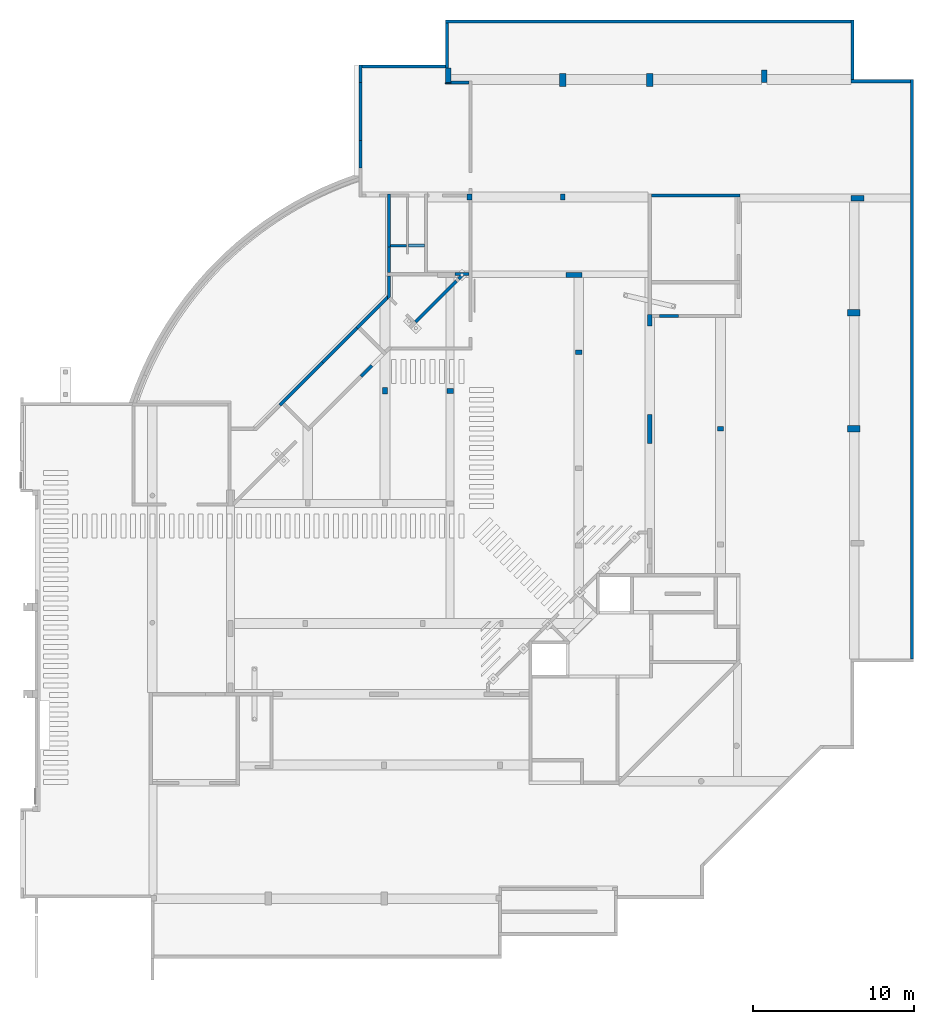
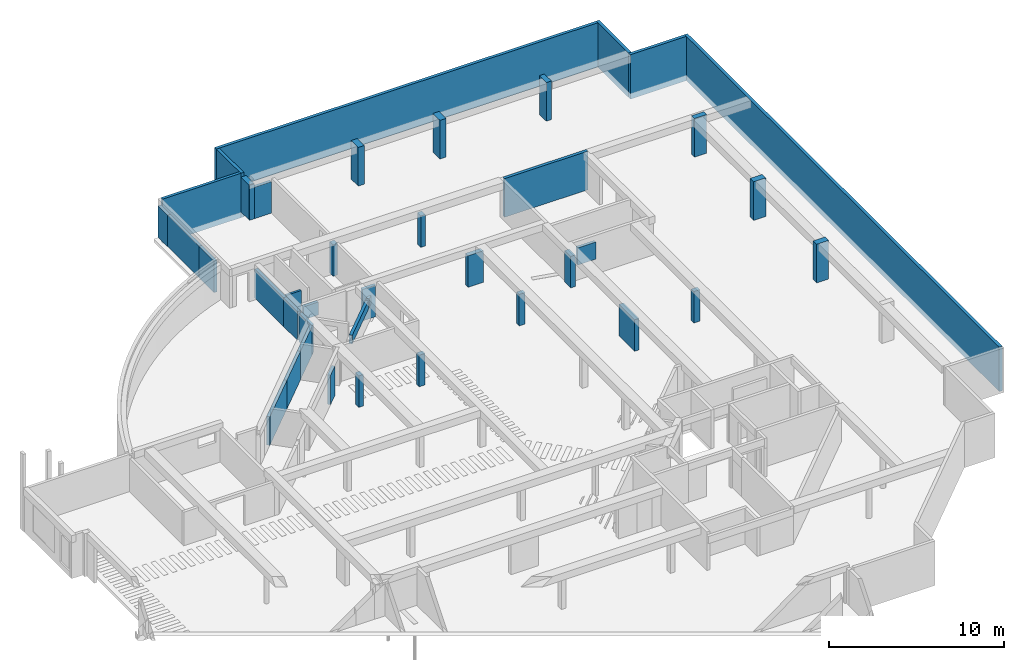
# One storey, part 5 of 12: 41 walls.
"""IFC4X3_ADD2 building model written with IfcOpenShell, lengths in millimetres."""

from ifc_helpers import new_model, si_unit, direction, frame, frame_2d, origin_with_axes, origin_2d_with_axis, place, context, subcontext, project, spatial, polyline, rectangle, outline, extrude, material, type_object, element, save


model = new_model("IFC4X3_ADD2")

# Units and contexts
model_context = context("Model", 3, precision=1e-05, world=origin_with_axes(), true_north=direction((0.0, 1.0)))
body_context = subcontext(model_context, "Body", "Model", "MODEL_VIEW")
ifc_project = project(units=[si_unit("LENGTHUNIT", "METRE", prefix="MILLI"), si_unit("AREAUNIT", "SQUARE_METRE"), si_unit("VOLUMEUNIT", "CUBIC_METRE"), si_unit("PLANEANGLEUNIT", "RADIAN"), si_unit("TIMEUNIT", "SECOND"), si_unit("MASSUNIT", "GRAM")], contexts=[model_context])

# Site, building, storey
site_placement = place(None, origin_with_axes())
site = spatial("IfcSite", under=ifc_project, at=site_placement, Name="Site", CompositionType="ELEMENT")
building_placement = place(site_placement, origin_with_axes())
building = spatial("IfcBuilding", under=site, at=building_placement, Name="IFC Building Story")
storey_placement = place(building_placement, frame((0.0, 0.0, -5940.0), z_axis=(0.0, 0.0, 1.0), x_axis=(1.0, 0.0, 0.0)))
storey = spatial("IfcBuildingStorey", under=building, at=storey_placement, Name="K20", Elevation=-5940.0)

# Walls
ifc_material_1 = material(Name="BB_Beton_Bestaand")
wall_type_1 = type_object("IfcWallType", Name="BB_Beton_Bestaand 200", PredefinedType="NOTDEFINED", material=ifc_material_1)
wall_1_placement = place(storey_placement, origin_with_axes())
element("IfcWall", 1, at=wall_1_placement, inside=storey, type_object=wall_type_1, Name="Basic Wall:BB_XX_Wand uit beton, 200 mm", ObjectType="Basic Wall:BB_XX_Wand uit beton, 200 mm", PredefinedType="SOLIDWALL", context=body_context, shape_type="SweptSolid", body=[
    extrude(rectangle(XDim=36005.0275077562, YDim=200.0, at=frame_2d((0.0, 0.0), x_axis=(0.0, 1.0))), frame((3699.82543599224, 32797.5137538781, -400.0), z_axis=(0.0, 0.0, 1.0), x_axis=(1.0, 0.0, 0.0)), (0.0, 0.0, 1.0), 3100.0),
])
wall_2_placement = place(storey_placement, origin_with_axes())
element("IfcWall", 2, at=wall_2_placement, inside=storey, type_object=wall_type_1, Name="Basic Wall:BB_XX_Wand uit beton, 200 mm", ObjectType="Basic Wall:BB_XX_Wand uit beton, 200 mm", PredefinedType="SOLIDWALL", context=body_context, shape_type="SweptSolid", body=[
    extrude(rectangle(XDim=3699.82543599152, YDim=200.0000000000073, at=origin_2d_with_axis()), frame((1749.91271799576, 50700.0275077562, -400.0), z_axis=(0.0, 0.0, 1.0), x_axis=(1.0, 0.0, 0.0)), (0.0, 0.0, 1.0), 3100.0),
])
wall_3_placement = place(storey_placement, origin_with_axes())
element("IfcWall", 3, at=wall_3_placement, inside=storey, type_object=wall_type_1, Name="Basic Wall:BB_XX_Wand uit beton, 200 mm", ObjectType="Basic Wall:BB_XX_Wand uit beton, 200 mm", PredefinedType="SOLIDWALL", context=body_context, shape_type="SweptSolid", body=[
    extrude(rectangle(XDim=3699.903721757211, YDim=200.0, at=frame_2d((0.0, 0.0), x_axis=(0.0, 1.0))), frame((0.0, 52649.9793686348, -400.0), z_axis=(0.0, 0.0, 1.0), x_axis=(1.0, 0.0, 0.0)), (0.0, 0.0, 1.0), 3100.0),
])
wall_4_placement = place(storey_placement, origin_with_axes())
element("IfcWall", 4, at=wall_4_placement, inside=storey, type_object=wall_type_1, Name="Basic Wall:BB_XX_Wand uit beton, 200 mm", ObjectType="Basic Wall:BB_XX_Wand uit beton, 200 mm", PredefinedType="SOLIDWALL", context=body_context, shape_type="SweptSolid", body=[
    extrude(rectangle(XDim=25200.0000000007, YDim=200.0, at=origin_2d_with_axis()), frame((-12699.99999999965, 54399.9312295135, -400.0), z_axis=(0.0, 0.0, 1.0), x_axis=(1.0, 0.0, 0.0)), (0.0, 0.0, 1.0), 3100.0),
])
wall_5_placement = place(storey_placement, origin_with_axes())
element("IfcWall", 5, at=wall_5_placement, inside=storey, type_object=wall_type_1, Name="Basic Wall:BB_XX_Wand uit beton, 200 mm", ObjectType="Basic Wall:BB_XX_Wand uit beton, 200 mm", PredefinedType="SOLIDWALL", context=body_context, shape_type="SweptSolid", body=[
    extrude(rectangle(XDim=2794.931229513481, YDim=200.0, at=frame_2d((0.0, 0.0), x_axis=(0.0, 1.0))), frame((-25200.0, 52902.46561475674, -400.0), z_axis=(0.0, 0.0, 1.0), x_axis=(1.0, 0.0, 0.0)), (0.0, 0.0, 1.0), 3100.0),
])
wall_6_placement = place(storey_placement, origin_with_axes())
element("IfcWall", 6, at=wall_6_placement, inside=storey, type_object=wall_type_1, Name="Basic Wall:BB_XX_Wand uit beton, 200 mm", ObjectType="Basic Wall:BB_XX_Wand uit beton, 200 mm", PredefinedType="SOLIDWALL", context=body_context, shape_type="SweptSolid", body=[
    extrude(rectangle(XDim=1090.000000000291, YDim=200.0, at=frame_2d((0.0, 0.0), x_axis=(0.0, 1.0))), frame((-30565.0, 51150.00000000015, 0.0), z_axis=(0.0, 0.0, 1.0), x_axis=(1.0, 0.0, 0.0)), (0.0, 0.0, 1.0), 2200.0),
])
wall_7_placement = place(storey_placement, origin_with_axes())
element("IfcWall", 7, at=wall_7_placement, inside=storey, type_object=wall_type_1, Name="Basic Wall:BB_XX_Wand uit beton, 200 mm", ObjectType="Basic Wall:BB_XX_Wand uit beton, 200 mm", PredefinedType="SOLIDWALL", context=body_context, shape_type="SweptSolid", body=[
    extrude(rectangle(XDim=3300.00406588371, YDim=200.0, at=frame_2d((0.0, 0.0), x_axis=(0.0, 1.0))), frame((-28800.0, 42049.99796705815, 0.0), z_axis=(0.0, 0.0, 1.0), x_axis=(1.0, 0.0, 0.0)), (0.0, 0.0, 1.0), 2010.0),
])
wall_8_placement = place(storey_placement, origin_with_axes())
element("IfcWall", 8, at=wall_8_placement, inside=storey, type_object=wall_type_1, Name="Basic Wall:BB_XX_Wand uit beton, 200 mm", ObjectType="Basic Wall:BB_XX_Wand uit beton, 200 mm", PredefinedType="SOLIDWALL", context=body_context, shape_type="SweptSolid", body=[
    extrude(outline(polyline([(-100.0, -793.5008513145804), (-100.0, 693.5008513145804), (100.0, 693.5008513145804), (100.0, -593.5008513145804), (-100.0, -793.5008513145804)])), frame((-28800.0, 37906.49508280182, 0.0), z_axis=(0.0, 0.0, 1.0), x_axis=(1.0, 0.0, 0.0)), (0.0, 0.0, 1.0), 2010.0),
])
wall_9_placement = place(storey_placement, origin_with_axes())
element("IfcWall", 9, at=wall_9_placement, inside=storey, type_object=wall_type_1, Name="Basic Wall:BB_XX_Wand uit beton, 200 mm", ObjectType="Basic Wall:BB_XX_Wand uit beton, 200 mm", PredefinedType="SOLIDWALL", context=body_context, shape_type="SweptSolid", body=[
    extrude(outline(polyline([(-1015.569356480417, -874.1480002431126), (944.8586783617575, 1086.280034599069), (944.8586783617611, 803.4373221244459), (-874.1480002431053, -1015.569356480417), (-1015.569356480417, -874.1480002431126)])), frame((-29844.85867836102, 36309.55690936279, 0.0), z_axis=(0.0, 0.0, 1.0), x_axis=(1.0, 0.0, 0.0)), (0.0, 0.0, 1.0), 2010.0),
])
wall_10_placement = place(storey_placement, origin_with_axes())
element("IfcWall", 10, at=wall_10_placement, inside=storey, type_object=wall_type_1, Name="Basic Wall:BB_XX_Wand uit beton, 200 mm", ObjectType="Basic Wall:BB_XX_Wand uit beton, 200 mm", PredefinedType="SOLIDWALL", context=body_context, shape_type="SweptSolid", body=[
    extrude(rectangle(XDim=3020.000000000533, YDim=199.9999999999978, at=frame_2d((0.0, 0.0), x_axis=(0.7071067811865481, 0.7071067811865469))), frame((-31857.44859631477, 34296.96699140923, 0.0), z_axis=(0.0, 0.0, 1.0), x_axis=(1.0, 0.0, 0.0)), (0.0, 0.0, 1.0), 2010.0),
])
wall_11_placement = place(storey_placement, origin_with_axes())
element("IfcWall", 11, at=wall_11_placement, inside=storey, type_object=wall_type_1, Name="Basic Wall:BB_XX_Wand uit beton, 200 mm", ObjectType="Basic Wall:BB_XX_Wand uit beton, 200 mm", PredefinedType="SOLIDWALL", context=body_context, shape_type="SweptSolid", body=[
    extrude(rectangle(XDim=5505.004065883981, YDim=200.0000000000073, at=origin_2d_with_axis()), frame((-9747.50203294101, 43600.0, 0.0), z_axis=(0.0, 0.0, 1.0), x_axis=(1.0, 0.0, 0.0)), (0.0, 0.0, 1.0), 2700.0),
])
wall_12_placement = place(storey_placement, origin_with_axes())
element("IfcWall", 12, at=wall_12_placement, inside=storey, type_object=wall_type_1, Name="Basic Wall:BB_XX_Wand uit beton, 200 mm", ObjectType="Basic Wall:BB_XX_Wand uit beton, 200 mm", PredefinedType="SOLIDWALL", context=body_context, shape_type="SweptSolid", body=[
    extrude(rectangle(XDim=3750.00000000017, YDim=199.9999999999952, at=frame_2d((0.0, 0.0), x_axis=(0.7071067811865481, 0.7071067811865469))), frame((-34251.00505063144, 31903.41053709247, 0.0), z_axis=(0.0, 0.0, 1.0), x_axis=(1.0, 0.0, 0.0)), (0.0, 0.0, 1.0), 2010.0),
])
wall_type_2 = type_object("IfcWallType", Name="BB_Beton_Bestaand 190", PredefinedType="NOTDEFINED", material=ifc_material_1)
wall_13_placement = place(storey_placement, origin_with_axes())
element("IfcWall", 13, at=wall_13_placement, inside=storey, type_object=wall_type_2, Name="Basic Wall:BB_XX_Wand uit beton, 190 mm", ObjectType="Basic Wall:BB_XX_Wand uit beton, 190 mm", PredefinedType="SOLIDWALL", context=body_context, shape_type="SweptSolid", body=[
    extrude(rectangle(XDim=5164.999999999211, YDim=189.9999999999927, at=origin_2d_with_axis()), frame((-27882.5000000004, 51600.0, -400.0), z_axis=(0.0, 0.0, 1.0), x_axis=(1.0, 0.0, 0.0)), (0.0, 0.0, 1.0), 3100.0),
])
wall_type_3 = type_object("IfcWallType", Name="BB_Beton_Bestaand 400", PredefinedType="NOTDEFINED", material=ifc_material_1)
wall_14_placement = place(storey_placement, origin_with_axes())
element("IfcWall", 14, at=wall_14_placement, inside=storey, type_object=wall_type_3, Name="Basic Wall:BB_XX_Wand uit beton, 400 mm", ObjectType="Basic Wall:BB_XX_Wand uit beton, 400 mm", PredefinedType="SOLIDWALL", context=body_context, shape_type="SweptSolid", body=[
    extrude(rectangle(XDim=799.999999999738, YDim=400.0000000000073, at=origin_2d_with_axis()), frame((79.99999999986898, 29100.0, 0.0), z_axis=(0.0, 0.0, 1.0), x_axis=(1.0, 0.0, 0.0)), (0.0, 0.0, 1.0), 2700.0),
])
wall_15_placement = place(storey_placement, origin_with_axes())
element("IfcWall", 15, at=wall_15_placement, inside=storey, type_object=wall_type_3, Name="Basic Wall:BB_XX_Wand uit beton, 400 mm", ObjectType="Basic Wall:BB_XX_Wand uit beton, 400 mm", PredefinedType="SOLIDWALL", context=body_context, shape_type="SweptSolid", body=[
    extrude(rectangle(XDim=799.999999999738, YDim=400.0, at=origin_2d_with_axis()), frame((79.99999999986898, 36300.0, 0.0), z_axis=(0.0, 0.0, 1.0), x_axis=(1.0, 0.0, 0.0)), (0.0, 0.0, 1.0), 2700.0),
])
wall_16_placement = place(storey_placement, origin_with_axes())
element("IfcWall", 16, at=wall_16_placement, inside=storey, type_object=wall_type_3, Name="Basic Wall:BB_XX_Wand uit beton, 400 mm", ObjectType="Basic Wall:BB_XX_Wand uit beton, 400 mm", PredefinedType="SOLIDWALL", context=body_context, shape_type="SweptSolid", body=[
    extrude(rectangle(XDim=799.9999999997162, YDim=400.0, at=frame_2d((0.0, 0.0), x_axis=(0.0, 1.0))), frame((-12599.3313868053, 50780.00000000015, 0.0), z_axis=(0.0, 0.0, 1.0), x_axis=(1.0, 0.0, 0.0)), (0.0, 0.0, 1.0), 2700.0),
])
wall_17_placement = place(storey_placement, origin_with_axes())
element("IfcWall", 17, at=wall_17_placement, inside=storey, type_object=wall_type_3, Name="Basic Wall:BB_XX_Wand uit beton, 400 mm", ObjectType="Basic Wall:BB_XX_Wand uit beton, 400 mm", PredefinedType="SOLIDWALL", context=body_context, shape_type="SweptSolid", body=[
    extrude(rectangle(XDim=799.9999999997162, YDim=400.0, at=frame_2d((0.0, 0.0), x_axis=(0.0, 1.0))), frame((-17999.3313868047, 50780.00000000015, 0.0), z_axis=(0.0, 0.0, 1.0), x_axis=(1.0, 0.0, 0.0)), (0.0, 0.0, 1.0), 2700.0),
])
wall_type_4 = type_object("IfcWallType", Name="BB_Beton_Bestaand 300", PredefinedType="NOTDEFINED", material=ifc_material_1)
wall_18_placement = place(storey_placement, origin_with_axes())
element("IfcWall", 18, at=wall_18_placement, inside=storey, type_object=wall_type_4, Name="Basic Wall:BB_XX_Wand uit beton, 300 mm", ObjectType="Basic Wall:BB_XX_Wand uit beton, 300 mm", PredefinedType="SOLIDWALL", context=body_context, shape_type="SweptSolid", body=[
    extrude(rectangle(XDim=400.0, YDim=300.0, at=origin_2d_with_axis()), frame((-17000.0, 33850.0, 0.0), z_axis=(0.0, 0.0, 1.0), x_axis=(1.0, 0.0, 0.0)), (0.0, 0.0, 1.0), 2200.0),
])
wall_19_placement = place(storey_placement, origin_with_axes())
element("IfcWall", 19, at=wall_19_placement, inside=storey, type_object=wall_type_4, Name="Basic Wall:BB_XX_Wand uit beton, 300 mm", ObjectType="Basic Wall:BB_XX_Wand uit beton, 300 mm", PredefinedType="SOLIDWALL", context=body_context, shape_type="SweptSolid", body=[
    extrude(rectangle(XDim=400.0000000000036, YDim=300.0, at=origin_2d_with_axis()), frame((-25000.0, 31450.0, 0.0), z_axis=(0.0, 0.0, 1.0), x_axis=(1.0, 0.0, 0.0)), (0.0, 0.0, 1.0), 2200.0),
])
wall_20_placement = place(storey_placement, origin_with_axes())
element("IfcWall", 20, at=wall_20_placement, inside=storey, type_object=wall_type_4, Name="Basic Wall:BB_XX_Wand uit beton, 300 mm", ObjectType="Basic Wall:BB_XX_Wand uit beton, 300 mm", PredefinedType="SOLIDWALL", context=body_context, shape_type="SweptSolid", body=[
    extrude(rectangle(XDim=400.0, YDim=300.0, at=frame_2d((0.0, 0.0), x_axis=(0.0, 1.0))), frame((-29050.0, 31450.0, 0.0), z_axis=(0.0, 0.0, 1.0), x_axis=(1.0, 0.0, 0.0)), (0.0, 0.0, 1.0), 2200.0),
])
wall_21_placement = place(storey_placement, origin_with_axes())
element("IfcWall", 21, at=wall_21_placement, inside=storey, type_object=wall_type_4, Name="Basic Wall:BB_XX_Wand uit beton, 300 mm", ObjectType="Basic Wall:BB_XX_Wand uit beton, 300 mm", PredefinedType="SOLIDWALL", context=body_context, shape_type="SweptSolid", body=[
    extrude(rectangle(XDim=999.9999999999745, YDim=300.0, at=origin_2d_with_axis()), frame((-17295.00000000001, 38650.0, 0.0), z_axis=(0.0, 0.0, 1.0), x_axis=(1.0, 0.0, 0.0)), (0.0, 0.0, 1.0), 2200.0),
])
wall_22_placement = place(storey_placement, origin_with_axes())
element("IfcWall", 22, at=wall_22_placement, inside=storey, type_object=wall_type_4, Name="Basic Wall:BB_XX_Wand uit beton, 300 mm", ObjectType="Basic Wall:BB_XX_Wand uit beton, 300 mm", PredefinedType="SOLIDWALL", context=body_context, shape_type="SweptSolid", body=[
    extrude(rectangle(XDim=700.0, YDim=300.0000000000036, at=frame_2d((0.0, 0.0), x_axis=(0.0, 1.0))), frame((-12600.0, 35850.0, 0.0), z_axis=(0.0, 0.0, 1.0), x_axis=(1.0, 0.0, 0.0)), (0.0, 0.0, 1.0), 2200.0),
])
wall_23_placement = place(storey_placement, origin_with_axes())
element("IfcWall", 23, at=wall_23_placement, inside=storey, type_object=wall_type_4, Name="Basic Wall:BB_XX_Wand uit beton, 300 mm", ObjectType="Basic Wall:BB_XX_Wand uit beton, 300 mm", PredefinedType="SOLIDWALL", context=body_context, shape_type="SweptSolid", body=[
    extrude(rectangle(XDim=1800.0, YDim=300.0000000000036, at=frame_2d((0.0, 0.0), x_axis=(0.0, 1.0))), frame((-12600.0, 29100.0, 0.0), z_axis=(0.0, 0.0, 1.0), x_axis=(1.0, 0.0, 0.0)), (0.0, 0.0, 1.0), 2200.0),
])
wall_24_placement = place(storey_placement, origin_with_axes())
element("IfcWall", 24, at=wall_24_placement, inside=storey, type_object=wall_type_4, Name="Basic Wall:BB_XX_Wand uit beton, 300 mm", ObjectType="Basic Wall:BB_XX_Wand uit beton, 300 mm", PredefinedType="SOLIDWALL", context=body_context, shape_type="SweptSolid", body=[
    extrude(rectangle(XDim=400.0, YDim=300.0, at=origin_2d_with_axis()), frame((-8200.0, 29100.0, 0.0), z_axis=(0.0, 0.0, 1.0), x_axis=(1.0, 0.0, 0.0)), (0.0, 0.0, 1.0), 2200.0),
])
wall_25_placement = place(storey_placement, origin_with_axes())
element("IfcWall", 25, at=wall_25_placement, inside=storey, type_object=wall_type_4, Name="Basic Wall:BB_XX_Wand uit beton, 300 mm", ObjectType="Basic Wall:BB_XX_Wand uit beton, 300 mm", PredefinedType="SOLIDWALL", context=body_context, shape_type="SweptSolid", body=[
    extrude(rectangle(XDim=400.0000000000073, YDim=300.0, at=frame_2d((0.0, 0.0), x_axis=(0.0, 1.0))), frame((-23800.0, 43500.0, 0.0), z_axis=(0.0, 0.0, 1.0), x_axis=(1.0, 0.0, 0.0)), (0.0, 0.0, 1.0), 2200.0),
])
wall_26_placement = place(storey_placement, origin_with_axes())
element("IfcWall", 26, at=wall_26_placement, inside=storey, type_object=wall_type_4, Name="Basic Wall:BB_XX_Wand uit beton, 300 mm", ObjectType="Basic Wall:BB_XX_Wand uit beton, 300 mm", PredefinedType="SOLIDWALL", context=body_context, shape_type="SweptSolid", body=[
    extrude(rectangle(XDim=400.0000000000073, YDim=300.0, at=frame_2d((0.0, 0.0), x_axis=(0.0, 1.0))), frame((-18000.0, 43500.0, 0.0), z_axis=(0.0, 0.0, 1.0), x_axis=(1.0, 0.0, 0.0)), (0.0, 0.0, 1.0), 2200.0),
])
wall_type_5 = type_object("IfcWallType", Name="BB_Beton_Bestaand 340", PredefinedType="NOTDEFINED", material=ifc_material_1)
wall_27_placement = place(storey_placement, origin_with_axes())
element("IfcWall", 27, at=wall_27_placement, inside=storey, type_object=wall_type_5, Name="Basic Wall:BB_XX_Wand uit beton, 340 mm", ObjectType="Basic Wall:BB_XX_Wand uit beton, 340 mm", PredefinedType="SOLIDWALL", context=body_context, shape_type="SweptSolid", body=[
    extrude(rectangle(XDim=800.0, YDim=339.9999999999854, at=origin_2d_with_axis()), frame((305.0, 43425.0, 0.0), z_axis=(0.0, 0.0, 1.0), x_axis=(1.0, 0.0, 0.0)), (0.0, 0.0, 1.0), 2700.0),
])
wall_28_placement = place(storey_placement, origin_with_axes())
element("IfcWall", 28, at=wall_28_placement, inside=storey, type_object=wall_type_5, Name="Basic Wall:BB_XX_Wand uit beton, 340 mm", ObjectType="Basic Wall:BB_XX_Wand uit beton, 340 mm", PredefinedType="SOLIDWALL", context=body_context, shape_type="SweptSolid", body=[
    extrude(rectangle(XDim=800.0, YDim=340.0, at=frame_2d((0.0, 0.0), x_axis=(0.0, 1.0))), frame((-5475.0, 51005.0, 0.0), z_axis=(0.0, 0.0, 1.0), x_axis=(1.0, 0.0, 0.0)), (0.0, 0.0, 1.0), 2700.0),
])
wall_29_placement = place(storey_placement, origin_with_axes())
element("IfcWall", 29, at=wall_29_placement, inside=storey, type_object=wall_type_5, Name="Basic Wall:BB_XX_Wand uit beton, 340 mm", ObjectType="Basic Wall:BB_XX_Wand uit beton, 340 mm", PredefinedType="SOLIDWALL", context=body_context, shape_type="SweptSolid", body=[
    extrude(rectangle(XDim=904.9999999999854, YDim=340.0, at=frame_2d((0.0, 0.0), x_axis=(0.0, 1.0))), frame((-25125.0, 51052.50000000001, 0.0), z_axis=(0.0, 0.0, 1.0), x_axis=(1.0, 0.0, 0.0)), (0.0, 0.0, 1.0), 2440.0),
])
ifc_material_2 = material(Name="BB_Metselwerk_Bestaand")
wall_type_6 = type_object("IfcWallType", Name="BB_Metselwerk_Bestaand 140", PredefinedType="NOTDEFINED", material=ifc_material_2)
wall_30_placement = place(storey_placement, origin_with_axes())
element("IfcWall", 30, at=wall_30_placement, inside=storey, type_object=wall_type_6, Name="Basic Wall:BB_XX_Wand uit metselwerk, 140 mm", ObjectType="Basic Wall:BB_XX_Wand uit metselwerk, 140 mm", PredefinedType="SOLIDWALL", context=body_context, shape_type="SweptSolid", body=[
    extrude(rectangle(XDim=980.0000000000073, YDim=140.0, at=origin_2d_with_axis()), frame((-28210.0, 40469.9959341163, 0.0), z_axis=(0.0, 0.0, 1.0), x_axis=(1.0, 0.0, 0.0)), (0.0, 0.0, 1.0), 2100.0),
])
ifc_material_3 = material(Name="BB_Metselwerk_Betonsteen")
wall_type_7 = type_object("IfcWallType", Name="BB_Metselwerk_Betonsteen 190", PredefinedType="NOTDEFINED", material=ifc_material_3)
wall_31_placement = place(storey_placement, origin_with_axes())
element("IfcWall", 31, at=wall_31_placement, inside=storey, type_object=wall_type_7, Name="Basic Wall:BB_03.09.24#05_Wand uit metselwerk_EI60, 190 mm", ObjectType="Basic Wall:BB_03.09.24#05_Wand uit metselwerk_EI60, 190 mm", PredefinedType="SOLIDWALL", context=body_context, shape_type="SweptSolid", body=[
    extrude(rectangle(XDim=1115.000000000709, YDim=189.9999999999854, at=origin_2d_with_axis()), frame((-24397.49999999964, 50625.0, 0.0), z_axis=(0.0, 0.0, 1.0), x_axis=(1.0, 0.0, 0.0)), (0.0, 0.0, 1.0), 2200.0),
])
wall_32_placement = place(storey_placement, origin_with_axes())
element("IfcWall", 32, at=wall_32_placement, inside=storey, type_object=wall_type_7, Name="Basic Wall:BB_03.09.24#05_Wand uit metselwerk_EI60, 190 mm", ObjectType="Basic Wall:BB_03.09.24#05_Wand uit metselwerk_EI60, 190 mm", PredefinedType="SOLIDWALL", context=body_context, shape_type="SweptSolid", body=[
    extrude(rectangle(XDim=865.0000000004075, YDim=190.0, at=origin_2d_with_axis()), frame((-24272.4999999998, 38704.9959341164, 0.0), z_axis=(0.0, 0.0, 1.0), x_axis=(1.0, 0.0, 0.0)), (0.0, 0.0, 1.0), 2200.0),
])
wall_33_placement = place(storey_placement, origin_with_axes())
element("IfcWall", 33, at=wall_33_placement, inside=storey, type_object=wall_type_7, Name="Basic Wall:BB_03.09.24#05_Wand uit metselwerk_EI60, 190 mm", ObjectType="Basic Wall:BB_03.09.24#05_Wand uit metselwerk_EI60, 190 mm", PredefinedType="SOLIDWALL", context=body_context, shape_type="SweptSolid", body=[
    extrude(rectangle(XDim=3578.006274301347, YDim=190.0000000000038, at=frame_2d((0.0, 0.0), x_axis=(0.7071067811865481, 0.7071067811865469))), frame((-25875.81329764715, 37018.84002882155, 1000.0), z_axis=(0.0, 0.0, 1.0), x_axis=(1.0, 0.0, 0.0)), (0.0, 0.0, 1.0), 600.0),
])
wall_34_placement = place(storey_placement, origin_with_axes())
element("IfcWall", 34, at=wall_34_placement, inside=storey, type_object=wall_type_7, Name="Basic Wall:BB_03.09.24#05_Wand uit metselwerk_EI60, 190 mm", ObjectType="Basic Wall:BB_03.09.24#05_Wand uit metselwerk_EI60, 190 mm", PredefinedType="SOLIDWALL", context=body_context, shape_type="SweptSolid", body=[
    extrude(rectangle(XDim=3585.001031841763, YDim=190.0, at=frame_2d((0.0, 0.0), x_axis=(0.0, 1.0))), frame((-30560.0, 48812.49948407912, 0.0), z_axis=(0.0, 0.0, 1.0), x_axis=(1.0, 0.0, 0.0)), (0.0, 0.0, 1.0), 2200.0),
])
wall_35_placement = place(storey_placement, origin_with_axes())
element("IfcWall", 35, at=wall_35_placement, inside=storey, type_object=wall_type_7, Name="Basic Wall:BB_03.09.24#05_Wand uit metselwerk_EI60, 190 mm", ObjectType="Basic Wall:BB_03.09.24#05_Wand uit metselwerk_EI60, 190 mm", PredefinedType="SOLIDWALL", context=body_context, shape_type="SweptSolid", body=[
    extrude(rectangle(XDim=1714.998968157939, YDim=190.0, at=frame_2d((0.0, 0.0), x_axis=(0.0, 1.0))), frame((-30560.0, 46162.49948407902, 0.0), z_axis=(0.0, 0.0, 1.0), x_axis=(1.0, 0.0, 0.0)), (0.0, 0.0, 1.0), 2200.0),
])
wall_36_placement = place(storey_placement, origin_with_axes())
element("IfcWall", 36, at=wall_36_placement, inside=storey, type_object=wall_type_7, Name="Basic Wall:BB_03.09.24#05_Wand uit metselwerk_EI60, 190 mm", ObjectType="Basic Wall:BB_03.09.24#05_Wand uit metselwerk_EI60, 190 mm", PredefinedType="SOLIDWALL", context=body_context, shape_type="SweptSolid", body=[
    extrude(rectangle(XDim=1599.999999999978, YDim=190.0, at=frame_2d((0.0, 0.0), x_axis=(0.0, 1.0))), frame((-28805.0, 39599.99593411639, 0.0), z_axis=(0.0, 0.0, 1.0), x_axis=(1.0, 0.0, 0.0)), (0.0, 0.0, 1.0), 2010.0),
])
wall_37_placement = place(storey_placement, origin_with_axes())
element("IfcWall", 37, at=wall_37_placement, inside=storey, type_object=wall_type_7, Name="Basic Wall:BB_03.09.24#05_Wand uit metselwerk_EI60, 190 mm", ObjectType="Basic Wall:BB_03.09.24#05_Wand uit metselwerk_EI60, 190 mm", PredefinedType="SOLIDWALL", context=body_context, shape_type="SweptSolid", body=[
    extrude(rectangle(XDim=979.9999999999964, YDim=189.9999999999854, at=origin_2d_with_axis()), frame((-27090.0, 40494.9959341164, 0.0), z_axis=(0.0, 0.0, 1.0), x_axis=(1.0, 0.0, 0.0)), (0.0, 0.0, 1.0), 907.180888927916),
])
wall_38_placement = place(storey_placement, origin_with_axes())
element("IfcWall", 38, at=wall_38_placement, inside=storey, type_object=wall_type_7, Name="Basic Wall:BB_03.09.24#05_Wand uit metselwerk_EI60, 190 mm", ObjectType="Basic Wall:BB_03.09.24#05_Wand uit metselwerk_EI60, 190 mm", PredefinedType="SOLIDWALL", context=body_context, shape_type="SweptSolid", body=[
    extrude(rectangle(XDim=946.0000000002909, YDim=190.0000000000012, at=frame_2d((0.0, 0.0), x_axis=(0.7071067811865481, 0.7071067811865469))), frame((-30194.33344696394, 32700.31987949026, 0.0), z_axis=(0.0, 0.0, 1.0), x_axis=(1.0, 0.0, 0.0)), (0.0, 0.0, 1.0), 2060.0),
])
wall_39_placement = place(storey_placement, origin_with_axes())
element("IfcWall", 39, at=wall_39_placement, inside=storey, type_object=wall_type_7, Name="Basic Wall:BB_03.09.24#05_Wand uit metselwerk_EI60, 190 mm", ObjectType="Basic Wall:BB_03.09.24#05_Wand uit metselwerk_EI60, 190 mm", PredefinedType="SOLIDWALL", context=body_context, shape_type="SweptSolid", body=[
    extrude(rectangle(XDim=1200.0, YDim=190.0, at=origin_2d_with_axis()), frame((-11400.0, 36095.0, 1035.0), z_axis=(0.0, 0.0, 1.0), x_axis=(1.0, 0.0, 0.0)), (0.0, 0.0, 1.0), 1200.0),
])
wall_type_8 = type_object("IfcWallType", Name="BB_Metselwerk_Betonsteen 70", PredefinedType="NOTDEFINED", material=ifc_material_3)
wall_40_placement = place(storey_placement, origin_with_axes())
element("IfcWall", 40, at=wall_40_placement, inside=storey, type_object=wall_type_8, Name="Basic Wall:BB_03.09.24#01_Wand uit metselwerk, 70 mm", ObjectType="Basic Wall:BB_03.09.24#01_Wand uit metselwerk, 70 mm", PredefinedType="SOLIDWALL", context=body_context, shape_type="SweptSolid", body=[
    extrude(rectangle(XDim=340.0, YDim=70.0, at=origin_2d_with_axis()), frame((-25125.0, 50565.0, 0.0), z_axis=(0.0, 0.0, 1.0), x_axis=(1.0, 0.0, 0.0)), (0.0, 0.0, 1.0), 2440.0),
])
wall_type_9 = type_object("IfcWallType", Name="BB_Metselwerk_Betonsteen 0", PredefinedType="NOTDEFINED", material=ifc_material_3)
wall_41_placement = place(storey_placement, origin_with_axes())
element("IfcWall", 41, at=wall_41_placement, inside=storey, type_object=wall_type_9, Name="Basic Wall:BB_03.09.24#05_Wand uit metselwerk_EI60, 190 mm", ObjectType="Basic Wall:BB_03.09.24#05_Wand uit metselwerk_EI60, 190 mm", PredefinedType="SOLIDWALL", context=body_context, shape_type="SweptSolid", body=[
    extrude(outline(polyline([(226.7094380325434, 92.35914960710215), (-25.18400539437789, -159.5342938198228), (-159.5342938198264, -25.18400539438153), (-41.99113881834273, 92.35914960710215), (226.7094380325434, 92.35914960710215)])), frame((-24377.0165419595, 38517.6367845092, 1000.0), z_axis=(0.0, 0.0, 1.0), x_axis=(1.0, 0.0, 0.0)), (0.0, 0.0, 1.0), 600.0),
])

save(model, "model.ifc")
